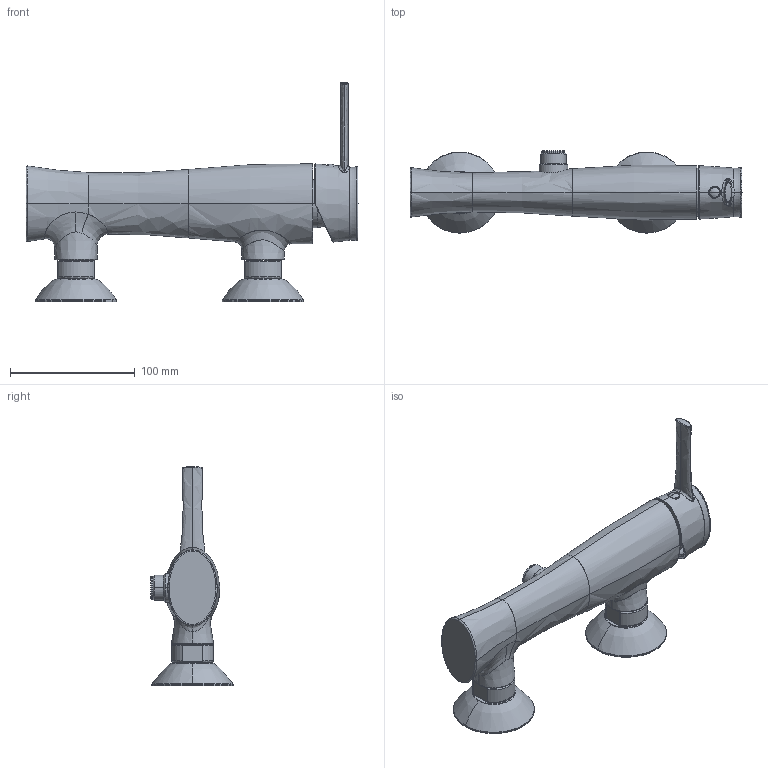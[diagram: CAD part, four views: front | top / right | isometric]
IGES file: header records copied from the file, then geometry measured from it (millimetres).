
Start section:  PTC IGES file: 58006.igs
Global section: file name: 58006.igs; native system: Creo Parametric by PTC Inc.; preprocessor: 2022014; author: carloff; organization: Unknown; date: 20260303.095411; units: millimetre
Bounding box: 266.22 x 65.8 x 175.62 mm (x, y, z)
Surface area: 84116.2 mm2 (no closed solid volume)
Topology: 0 solids, 0 shells, 294 faces, 1308 edges, 1306 vertices
Faces by surface type: bspline 166, revolution 128
